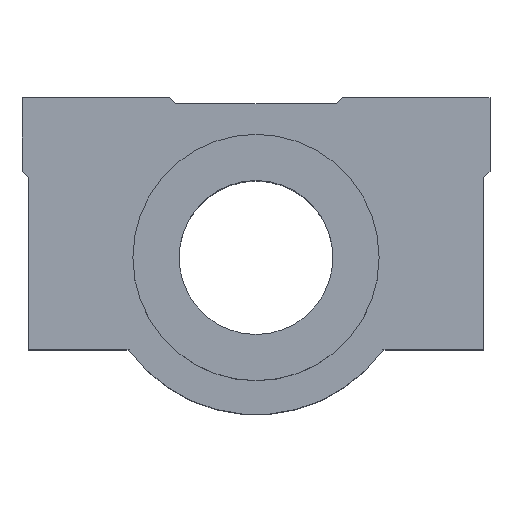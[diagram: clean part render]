
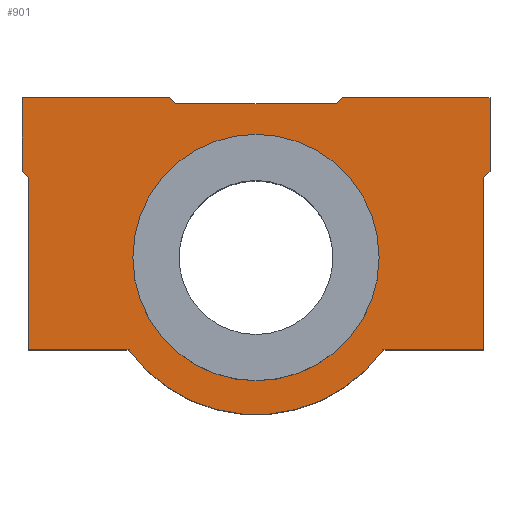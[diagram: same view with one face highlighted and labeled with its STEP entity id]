
A CAD part, top view. The second image highlights one B-rep face of the part: STEP entity #901.
In plain terms, the highlighted planar face has unit normal (0, 0, 1).
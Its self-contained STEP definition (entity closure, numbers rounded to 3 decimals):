
#133=CARTESIAN_POINT('',(-20.709,4.198,48.2));
#134=VERTEX_POINT('',#133);
#143=CARTESIAN_POINT('',(19.291,4.198,48.2));
#144=VERTEX_POINT('',#143);
#145=CARTESIAN_POINT('',(-0.709,4.198,48.2));
#146=DIRECTION('',(0.0,0.0,1.0));
#147=DIRECTION('',(-1.0,0.0,0.0));
#148=AXIS2_PLACEMENT_3D('',#145,#146,#147);
#149=CIRCLE('',#148,20.0);
#150=EDGE_CURVE('',#134,#144,#149,.T.);
#522=CARTESIAN_POINT('',(37.291,18.198,48.2));
#523=VERTEX_POINT('',#522);
#524=CARTESIAN_POINT('',(36.291,17.198,48.2));
#525=VERTEX_POINT('',#524);
#526=CARTESIAN_POINT('',(37.291,18.198,48.2));
#527=DIRECTION('',(-0.707,-0.707,0.0));
#528=VECTOR('',#527,1.414);
#529=LINE('',#526,#528);
#530=EDGE_CURVE('',#523,#525,#529,.T.);
#553=CARTESIAN_POINT('',(36.291,-10.802,48.2));
#554=VERTEX_POINT('',#553);
#555=CARTESIAN_POINT('',(36.291,17.198,48.2));
#556=DIRECTION('',(0.0,-1.0,0.0));
#557=VECTOR('',#556,28.);
#558=LINE('',#555,#557);
#559=EDGE_CURVE('',#525,#554,#558,.T.);
#577=CARTESIAN_POINT('',(19.913,-10.802,48.2));
#578=VERTEX_POINT('',#577);
#579=CARTESIAN_POINT('',(36.291,-10.802,48.2));
#580=DIRECTION('',(-1.0,0.0,0.0));
#581=VECTOR('',#580,16.378);
#582=LINE('',#579,#581);
#583=EDGE_CURVE('',#554,#578,#582,.T.);
#605=CARTESIAN_POINT('',(-21.33,-10.802,48.2));
#606=VERTEX_POINT('',#605);
#607=CARTESIAN_POINT('',(-0.709,4.198,48.2));
#608=DIRECTION('',(0.0,0.0,-1.0));
#609=DIRECTION('',(0.809,0.588,0.0));
#610=AXIS2_PLACEMENT_3D('',#607,#608,#609);
#611=CIRCLE('',#610,25.5);
#612=EDGE_CURVE('',#578,#606,#611,.T.);
#630=CARTESIAN_POINT('',(-37.709,-10.802,48.2));
#631=VERTEX_POINT('',#630);
#632=CARTESIAN_POINT('',(-21.33,-10.802,48.2));
#633=DIRECTION('',(-1.0,0.0,0.0));
#634=VECTOR('',#633,16.378);
#635=LINE('',#632,#634);
#636=EDGE_CURVE('',#606,#631,#635,.T.);
#658=CARTESIAN_POINT('',(-37.709,17.198,48.2));
#659=VERTEX_POINT('',#658);
#660=CARTESIAN_POINT('',(-37.709,-10.802,48.2));
#661=DIRECTION('',(0.0,1.0,0.0));
#662=VECTOR('',#661,28.0);
#663=LINE('',#660,#662);
#664=EDGE_CURVE('',#631,#659,#663,.T.);
#682=CARTESIAN_POINT('',(-38.709,18.198,48.2));
#683=VERTEX_POINT('',#682);
#684=CARTESIAN_POINT('',(-37.709,17.198,48.2));
#685=DIRECTION('',(-0.707,0.707,0.0));
#686=VECTOR('',#685,1.414);
#687=LINE('',#684,#686);
#688=EDGE_CURVE('',#659,#683,#687,.T.);
#706=CARTESIAN_POINT('',(-38.709,30.198,48.2));
#707=VERTEX_POINT('',#706);
#708=CARTESIAN_POINT('',(-38.709,18.198,48.2));
#709=DIRECTION('',(0.0,1.0,0.0));
#710=VECTOR('',#709,12.);
#711=LINE('',#708,#710);
#712=EDGE_CURVE('',#683,#707,#711,.T.);
#730=CARTESIAN_POINT('',(-14.709,30.198,48.2));
#731=VERTEX_POINT('',#730);
#732=CARTESIAN_POINT('',(-38.709,30.198,48.2));
#733=DIRECTION('',(1.0,0.0,0.0));
#734=VECTOR('',#733,24.);
#735=LINE('',#732,#734);
#736=EDGE_CURVE('',#707,#731,#735,.T.);
#758=CARTESIAN_POINT('',(-13.709,29.198,48.2));
#759=VERTEX_POINT('',#758);
#760=CARTESIAN_POINT('',(-14.709,30.198,48.2));
#761=DIRECTION('',(0.707,-0.707,0.0));
#762=VECTOR('',#761,1.414);
#763=LINE('',#760,#762);
#764=EDGE_CURVE('',#731,#759,#763,.T.);
#782=CARTESIAN_POINT('',(12.291,29.198,48.2));
#783=VERTEX_POINT('',#782);
#784=CARTESIAN_POINT('',(-13.709,29.198,48.2));
#785=DIRECTION('',(1.0,0.0,0.0));
#786=VECTOR('',#785,26.0);
#787=LINE('',#784,#786);
#788=EDGE_CURVE('',#759,#783,#787,.T.);
#806=CARTESIAN_POINT('',(13.291,30.198,48.2));
#807=VERTEX_POINT('',#806);
#808=CARTESIAN_POINT('',(12.291,29.198,48.2));
#809=DIRECTION('',(0.707,0.707,0.0));
#810=VECTOR('',#809,1.414);
#811=LINE('',#808,#810);
#812=EDGE_CURVE('',#783,#807,#811,.T.);
#830=CARTESIAN_POINT('',(37.291,30.198,48.2));
#831=VERTEX_POINT('',#830);
#832=CARTESIAN_POINT('',(13.291,30.198,48.2));
#833=DIRECTION('',(1.0,0.0,0.0));
#834=VECTOR('',#833,24.);
#835=LINE('',#832,#834);
#836=EDGE_CURVE('',#807,#831,#835,.T.);
#858=CARTESIAN_POINT('',(37.291,30.198,48.2));
#859=DIRECTION('',(0.0,-1.0,0.0));
#860=VECTOR('',#859,12.);
#861=LINE('',#858,#860);
#862=EDGE_CURVE('',#831,#523,#861,.T.);
#870=CARTESIAN_POINT('',(-0.709,8.034,48.2));
#871=DIRECTION('',(0.0,0.0,1.0));
#872=DIRECTION('',(1.0,0.0,0.0));
#873=AXIS2_PLACEMENT_3D('',#870,#871,#872);
#874=PLANE('',#873);
#875=ORIENTED_EDGE('',*,*,#530,.F.);
#876=ORIENTED_EDGE('',*,*,#862,.F.);
#877=ORIENTED_EDGE('',*,*,#836,.F.);
#878=ORIENTED_EDGE('',*,*,#812,.F.);
#879=ORIENTED_EDGE('',*,*,#788,.F.);
#880=ORIENTED_EDGE('',*,*,#764,.F.);
#881=ORIENTED_EDGE('',*,*,#736,.F.);
#882=ORIENTED_EDGE('',*,*,#712,.F.);
#883=ORIENTED_EDGE('',*,*,#688,.F.);
#884=ORIENTED_EDGE('',*,*,#664,.F.);
#885=ORIENTED_EDGE('',*,*,#636,.F.);
#886=ORIENTED_EDGE('',*,*,#612,.F.);
#887=ORIENTED_EDGE('',*,*,#583,.F.);
#888=ORIENTED_EDGE('',*,*,#559,.F.);
#889=EDGE_LOOP('',(#875,#876,#877,#878,#879,#880,#881,#882,#883,#884,#885,#886,#887,#888));
#890=FACE_OUTER_BOUND('',#889,.T.);
#891=CARTESIAN_POINT('',(-0.709,4.198,48.2));
#892=DIRECTION('',(0.0,0.0,1.0));
#893=DIRECTION('',(-1.0,0.0,0.0));
#894=AXIS2_PLACEMENT_3D('',#891,#892,#893);
#895=CIRCLE('',#894,20.0);
#896=EDGE_CURVE('',#144,#134,#895,.T.);
#897=ORIENTED_EDGE('',*,*,#896,.F.);
#898=ORIENTED_EDGE('',*,*,#150,.F.);
#899=EDGE_LOOP('',(#897,#898));
#900=FACE_BOUND('',#899,.T.);
#901=ADVANCED_FACE('',(#890,#900),#874,.T.);
